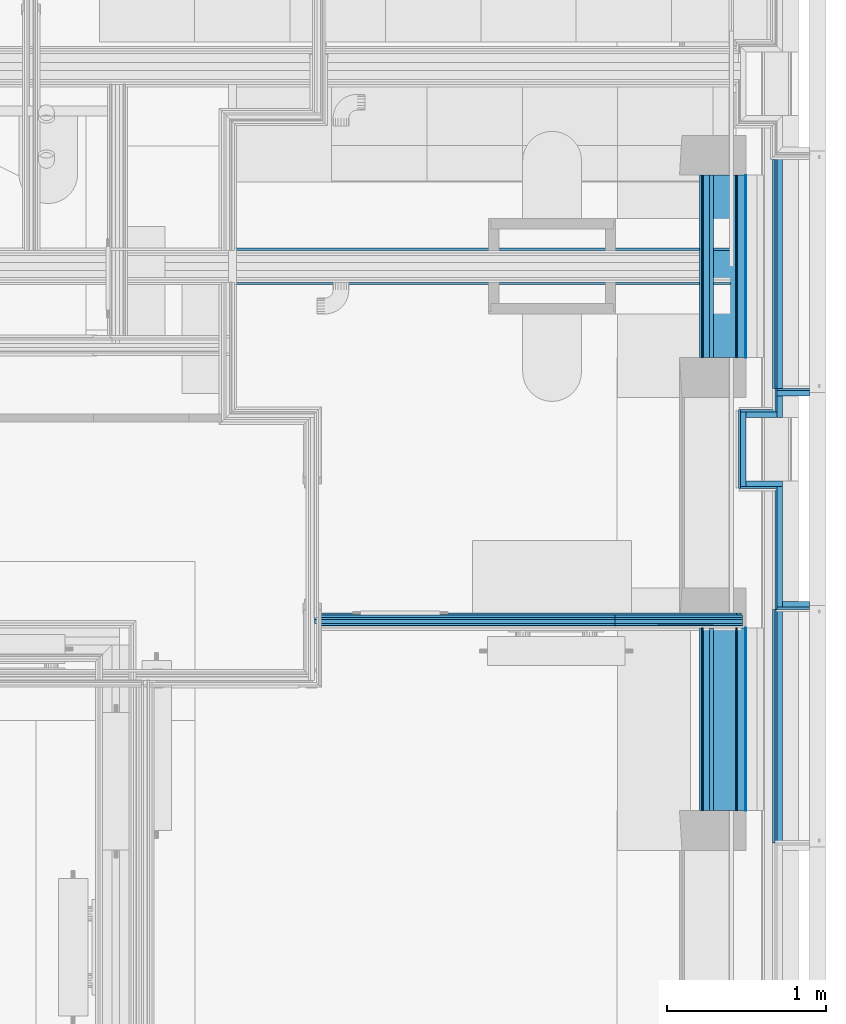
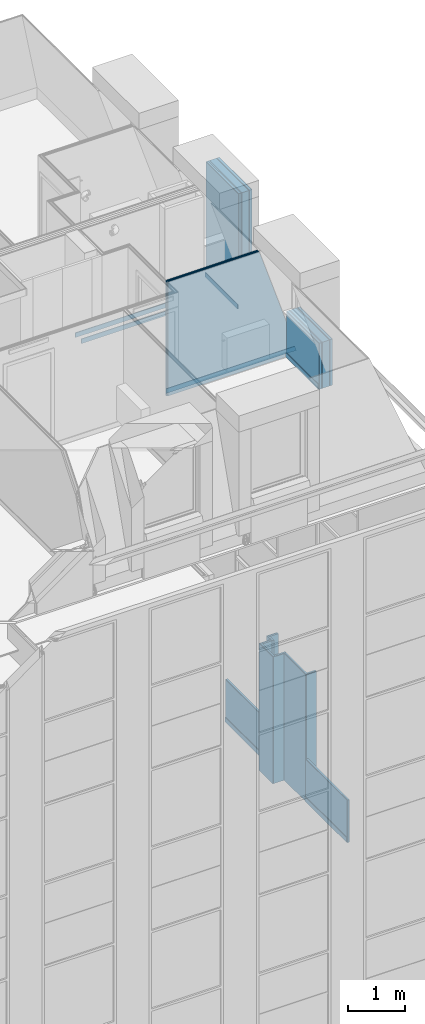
# One storey, part 41 of 169: 43 building element parts, 13 elements without a shape of their own.
"""IFC2X3 building model written with IfcOpenShell, lengths in metres."""

from ifc_helpers import new_model, entity, si_unit, converted_unit, derived_unit, money_unit, direction, frame, frame_2d, origin_with_axes, place, context, subcontext, project, spatial, rectangle, extrude, clip, halfspace, material, type_object, element, aggregate, save


model = new_model("IFC2X3")

# Units and contexts
model_context = context("Model", 3, precision=1e-05, world=origin_with_axes(), true_north=direction((0.0, 1.0)))
body_context = subcontext(model_context, "Body", "Model", "MODEL_VIEW", scale=1.0)
ifc_project = project(units=[si_unit("LENGTHUNIT", "METRE"), si_unit("AREAUNIT", "SQUARE_METRE"), si_unit("VOLUMEUNIT", "CUBIC_METRE"), si_unit("ABSORBEDDOSEUNIT", "GRAY"), si_unit("AMOUNTOFSUBSTANCEUNIT", "MOLE"), si_unit("DOSEEQUIVALENTUNIT", "SIEVERT"), si_unit("ELECTRICCAPACITANCEUNIT", "FARAD"), si_unit("ELECTRICCHARGEUNIT", "COULOMB"), si_unit("ELECTRICCONDUCTANCEUNIT", "SIEMENS"), si_unit("ELECTRICCURRENTUNIT", "AMPERE"), si_unit("ELECTRICRESISTANCEUNIT", "OHM"), si_unit("ELECTRICVOLTAGEUNIT", "VOLT"), si_unit("ENERGYUNIT", "JOULE"), si_unit("FORCEUNIT", "NEWTON"), si_unit("FREQUENCYUNIT", "HERTZ"), si_unit("ILLUMINANCEUNIT", "LUX"), si_unit("INDUCTANCEUNIT", "HENRY"), si_unit("LUMINOUSFLUXUNIT", "LUMEN"), si_unit("LUMINOUSINTENSITYUNIT", "CANDELA"), si_unit("MAGNETICFLUXDENSITYUNIT", "TESLA"), si_unit("MAGNETICFLUXUNIT", "WEBER"), si_unit("MASSUNIT", "GRAM"), converted_unit("PLANEANGLEUNIT", "degree", entity("IfcReal", 0.0174532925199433), si_unit("PLANEANGLEUNIT", "RADIAN"), dimensions=[0, 0, 0, 0, 0, 0, 0]), si_unit("POWERUNIT", "WATT"), si_unit("PRESSUREUNIT", "PASCAL"), si_unit("RADIOACTIVITYUNIT", "BECQUEREL"), si_unit("SOLIDANGLEUNIT", "STERADIAN"), si_unit("THERMODYNAMICTEMPERATUREUNIT", "KELVIN"), si_unit("TIMEUNIT", "SECOND"), derived_unit("ACCELERATIONUNIT", [(si_unit("LENGTHUNIT", "METRE"), 1), (si_unit("TIMEUNIT", "SECOND"), -2)]), derived_unit("ANGULARVELOCITYUNIT", [(converted_unit("PLANEANGLEUNIT", "degree", entity("IfcReal", 0.0174532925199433), si_unit("PLANEANGLEUNIT", "RADIAN"), dimensions=[0, 0, 0, 0, 0, 0, 0]), 1), (si_unit("TIMEUNIT", "SECOND"), -1)]), derived_unit("CURVATUREUNIT", [(converted_unit("PLANEANGLEUNIT", "degree", entity("IfcReal", 0.0174532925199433), si_unit("PLANEANGLEUNIT", "RADIAN"), dimensions=[0, 0, 0, 0, 0, 0, 0]), 1), (si_unit("LENGTHUNIT", "METRE"), -1)]), derived_unit("DYNAMICVISCOSITYUNIT", [(si_unit("PRESSUREUNIT", "PASCAL"), 1), (si_unit("TIMEUNIT", "SECOND"), 1)]), derived_unit("HEATFLUXDENSITYUNIT", [(si_unit("POWERUNIT", "WATT"), 1), (si_unit("LENGTHUNIT", "METRE"), -2)]), derived_unit("HEATINGVALUEUNIT", [(si_unit("ENERGYUNIT", "JOULE"), 1), (si_unit("MASSUNIT", "GRAM"), -1)]), derived_unit("INTEGERCOUNTRATEUNIT", [(si_unit("TIMEUNIT", "SECOND"), -1)]), derived_unit("IONCONCENTRATIONUNIT", [(si_unit("MASSUNIT", "GRAM"), 1), (si_unit("VOLUMEUNIT", "CUBIC_METRE"), -1)]), derived_unit("ISOTHERMALMOISTURECAPACITYUNIT", [(si_unit("VOLUMEUNIT", "CUBIC_METRE"), 1), (si_unit("MASSUNIT", "GRAM"), -1)]), derived_unit("KINEMATICVISCOSITYUNIT", [(si_unit("AREAUNIT", "SQUARE_METRE"), 1), (si_unit("TIMEUNIT", "SECOND"), -1)]), derived_unit("LINEARFORCEUNIT", [(si_unit("FORCEUNIT", "NEWTON"), 1), (si_unit("LENGTHUNIT", "METRE"), -1)]), derived_unit("LINEARMOMENTUNIT", [(si_unit("FORCEUNIT", "NEWTON"), 1), (si_unit("LENGTHUNIT", "METRE"), -1)]), derived_unit("LINEARSTIFFNESSUNIT", [(si_unit("FORCEUNIT", "NEWTON"), 1), (si_unit("LENGTHUNIT", "METRE"), -1)]), derived_unit("LINEARVELOCITYUNIT", [(si_unit("LENGTHUNIT", "METRE"), 1), (si_unit("TIMEUNIT", "SECOND"), -1)]), derived_unit("LUMINOUSINTENSITYDISTRIBUTIONUNIT", [(si_unit("LUMINOUSINTENSITYUNIT", "CANDELA"), 1), (si_unit("LUMINOUSFLUXUNIT", "LUMEN"), -1)]), derived_unit("MASSDENSITYUNIT", [(si_unit("MASSUNIT", "GRAM"), 1), (si_unit("VOLUMEUNIT", "CUBIC_METRE"), -1)]), derived_unit("MASSFLOWRATEUNIT", [(si_unit("MASSUNIT", "GRAM"), 1), (si_unit("TIMEUNIT", "SECOND"), -1)]), derived_unit("MASSPERLENGTHUNIT", [(si_unit("MASSUNIT", "GRAM"), 1), (si_unit("LENGTHUNIT", "METRE"), -1)]), derived_unit("MODULUSOFELASTICITYUNIT", [(si_unit("FORCEUNIT", "NEWTON"), 1), (si_unit("AREAUNIT", "SQUARE_METRE"), -1)]), derived_unit("MODULUSOFLINEARSUBGRADEREACTIONUNIT", [(si_unit("FORCEUNIT", "NEWTON"), 1), (si_unit("LENGTHUNIT", "METRE"), -2)]), derived_unit("MODULUSOFROTATIONALSUBGRADEREACTIONUNIT", [(si_unit("FORCEUNIT", "NEWTON"), 1), (si_unit("LENGTHUNIT", "METRE"), 1)]), derived_unit("MODULUSOFSUBGRADEREACTIONUNIT", [(si_unit("FORCEUNIT", "NEWTON"), 1), (si_unit("VOLUMEUNIT", "CUBIC_METRE"), -1)]), derived_unit("MOISTUREDIFFUSIVITYUNIT", [(si_unit("VOLUMEUNIT", "CUBIC_METRE"), 1), (si_unit("TIMEUNIT", "SECOND"), -1)]), derived_unit("MOLECULARWEIGHTUNIT", [(si_unit("MASSUNIT", "GRAM"), 1), (si_unit("AMOUNTOFSUBSTANCEUNIT", "MOLE"), -1)]), derived_unit("PLANARFORCEUNIT", [(si_unit("FORCEUNIT", "NEWTON"), 1), (si_unit("LENGTHUNIT", "METRE"), -2)]), derived_unit("ROTATIONALFREQUENCYUNIT", [(si_unit("TIMEUNIT", "SECOND"), -1)]), derived_unit("ROTATIONALMASSUNIT", [(si_unit("MASSUNIT", "GRAM"), 1), (si_unit("LENGTHUNIT", "METRE"), 2)]), derived_unit("ROTATIONALSTIFFNESSUNIT", [(si_unit("FORCEUNIT", "NEWTON"), 1), (si_unit("LENGTHUNIT", "METRE"), 1), (converted_unit("PLANEANGLEUNIT", "degree", entity("IfcReal", 0.0174532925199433), si_unit("PLANEANGLEUNIT", "RADIAN"), dimensions=[0, 0, 0, 0, 0, 0, 0]), -1)]), derived_unit("SECTIONAREAINTEGRALUNIT", [(si_unit("LENGTHUNIT", "METRE"), 5)]), derived_unit("SECTIONMODULUSUNIT", [(si_unit("LENGTHUNIT", "METRE"), 3)]), derived_unit("SHEARMODULUSUNIT", [(si_unit("FORCEUNIT", "NEWTON"), 1), (si_unit("AREAUNIT", "SQUARE_METRE"), -1)]), derived_unit("SOUNDPOWERUNIT", [(si_unit("ENERGYUNIT", "JOULE"), 1), (si_unit("TIMEUNIT", "SECOND"), -1)]), derived_unit("SPECIFICHEATCAPACITYUNIT", [(si_unit("FORCEUNIT", "NEWTON"), 1), (si_unit("MASSUNIT", "GRAM"), -1), (si_unit("THERMODYNAMICTEMPERATUREUNIT", "KELVIN"), -1)]), derived_unit("TEMPERATUREGRADIENTUNIT", [(si_unit("THERMODYNAMICTEMPERATUREUNIT", "KELVIN"), 1), (si_unit("LENGTHUNIT", "METRE"), -1)]), derived_unit("THERMALADMITTANCEUNIT", [(si_unit("POWERUNIT", "WATT"), 1), (si_unit("AREAUNIT", "SQUARE_METRE"), -1), (si_unit("THERMODYNAMICTEMPERATUREUNIT", "KELVIN"), -1)]), derived_unit("THERMALCONDUCTANCEUNIT", [(si_unit("POWERUNIT", "WATT"), 1), (si_unit("LENGTHUNIT", "METRE"), -1), (si_unit("THERMODYNAMICTEMPERATUREUNIT", "KELVIN"), -1)]), derived_unit("THERMALEXPANSIONCOEFFICIENTUNIT", [(si_unit("THERMODYNAMICTEMPERATUREUNIT", "KELVIN"), -1)]), derived_unit("THERMALRESISTANCEUNIT", [(si_unit("AREAUNIT", "SQUARE_METRE"), 1), (si_unit("POWERUNIT", "WATT"), -1)]), derived_unit("THERMALTRANSMITTANCEUNIT", [(si_unit("POWERUNIT", "WATT"), 1), (si_unit("AREAUNIT", "SQUARE_METRE"), -1), (si_unit("THERMODYNAMICTEMPERATUREUNIT", "KELVIN"), -1)]), derived_unit("TORQUEUNIT", [(si_unit("FORCEUNIT", "NEWTON"), 1), (si_unit("LENGTHUNIT", "METRE"), 1)]), derived_unit("VAPORPERMEABILITYUNIT", [(si_unit("MASSUNIT", "GRAM"), 1), (si_unit("TIMEUNIT", "SECOND"), -1)]), derived_unit("VOLUMETRICFLOWRATEUNIT", [(si_unit("VOLUMEUNIT", "CUBIC_METRE"), 1), (si_unit("TIMEUNIT", "SECOND"), -1)]), derived_unit("WARPINGCONSTANTUNIT", [(si_unit("LENGTHUNIT", "METRE"), 6)]), derived_unit("WARPINGMOMENTUNIT", [(si_unit("FORCEUNIT", "NEWTON"), 1), (si_unit("LENGTHUNIT", "METRE"), 2)]), money_unit("GBP")], contexts=[model_context])

# Site, building, storey
site_placement = place(None, origin_with_axes())
site = spatial("IfcSite", under=ifc_project, at=site_placement, Name="Site", CompositionType="ELEMENT")
building_placement = place(site_placement, origin_with_axes())
building = spatial("IfcBuilding", under=site, at=building_placement, Name="Building01", CompositionType="ELEMENT")
storey_placement = place(building_placement, frame((0.0, 0.0, 5.15), z_axis=(0.0, 0.0, 1.0), x_axis=(1.0, 0.0, 0.0)))
storey = spatial("IfcBuildingStorey", under=building, at=storey_placement, Name="1F", CompositionType="ELEMENT", Elevation=5.15)

# Wall, building element parts
wall_type_1 = type_object("IfcWallType", Name="SHE_A-Walls_Type06d_ExternalWallInsulation_48mm", PredefinedType="NOTDEFINED")
wall_1_placement = place(storey_placement, frame((26.674, 5.29218, 0.0), z_axis=(0.0, 0.0, 1.0), x_axis=(0.0, -1.0, 0.0)))
wall_1 = element("IfcWall", 1, at=wall_1_placement, inside=storey, type_object=wall_type_1, Name="6D", ObjectType="SHE_A-Walls_Type06d_ExternalWallInsulation_48mm")
ifc_material_1 = material(Name="A_BSUK_Walls_Timber")
placement_1 = place(wall_1_placement, origin_with_axes())
building_element_part_1 = element("IfcBuildingElementPart", 2, at=placement_1, material=ifc_material_1, Name="1", context=body_context, shape_type="SweptSolid", body=[
    extrude(rectangle(XDim=1.47, YDim=0.015, at=frame_2d((0.735, -0.0195), x_axis=(-1.0, 0.0))), frame((0.0, 0.0, 0.015), z_axis=(0.0, 0.0, 1.0), x_axis=(1.0, 0.0, 0.0)), (0.0, 0.0, 1.0), 0.1),
])
ifc_material_2 = material(Name="A_BSUK_WallInternal_Finishes_Plasterboard")
building_element_part_2 = element("IfcBuildingElementPart", 3, at=placement_1, material=ifc_material_2, Name="2", context=body_context, shape_type="SweptSolid", body=[
    extrude(rectangle(XDim=1.47, YDim=0.013, at=frame_2d((0.735, -0.0055), x_axis=(-1.0, 0.0))), origin_with_axes(), (0.0, 0.0, 1.0), 0.915),
])
ifc_material_3 = material(Name="A_BSUK_Insulation")
building_element_part_3 = element("IfcBuildingElementPart", 4, at=placement_1, material=ifc_material_3, Name="3", context=body_context, shape_type="SweptSolid", body=[
    extrude(rectangle(XDim=1.47, YDim=0.036, at=frame_2d((0.735, 0.018), x_axis=(-1.0, 0.0))), origin_with_axes(), (0.0, 0.0, 1.0), 0.915),
])
aggregate(wall_1, [building_element_part_1, building_element_part_2, building_element_part_3])

wall_2_placement = place(storey_placement, frame((26.71, 5.34018, 0.0), z_axis=(0.0, 0.0, 1.0), x_axis=(1.0, 0.0, 0.0)))
wall_2 = element("IfcWall", 5, at=wall_2_placement, inside=storey, type_object=wall_type_1, Name="6D", ObjectType="SHE_A-Walls_Type06d_ExternalWallInsulation_48mm")
placement_2 = place(wall_2_placement, origin_with_axes())
building_element_part_4 = element("IfcBuildingElementPart", 6, at=placement_2, material=ifc_material_2, Name="2", context=body_context, shape_type="SweptSolid", body=[
    extrude(rectangle(XDim=0.013, YDim=0.205, at=frame_2d((0.0675, -0.0415), x_axis=(0.0, -1.0))), origin_with_axes(), (0.0, 0.0, 1.0), 2.74),
])
building_element_part_5 = element("IfcBuildingElementPart", 7, at=placement_2, material=ifc_material_3, Name="3", context=body_context, shape_type="SweptSolid", body=[
    extrude(rectangle(XDim=0.036, YDim=0.17, at=frame_2d((0.085, -0.018), x_axis=(0.0, -1.0))), origin_with_axes(), (0.0, 0.0, 1.0), 2.74),
])
aggregate(wall_2, [building_element_part_4, building_element_part_5])

wall_3_placement = place(storey_placement, frame((26.71, 5.30418, 0.0), z_axis=(0.0, 0.0, 1.0), x_axis=(0.0, 1.0, 0.0)))
wall_3 = element("IfcWall", 8, at=wall_3_placement, inside=storey, type_object=wall_type_1, Name="6D", ObjectType="SHE_A-Walls_Type06d_ExternalWallInsulation_48mm")
placement_3 = place(wall_3_placement, origin_with_axes())
building_element_part_6 = element("IfcBuildingElementPart", 9, at=placement_3, material=ifc_material_3, Name="1", context=body_context, shape_type="SweptSolid", body=[
    extrude(rectangle(XDim=0.75982, YDim=0.036, at=frame_2d((0.37991, 0.018), x_axis=(-1.0, 0.0))), origin_with_axes(), (0.0, 0.0, 1.0), 2.74),
])
building_element_part_7 = element("IfcBuildingElementPart", 10, at=placement_3, material=ifc_material_2, Name="2", context=body_context, shape_type="SweptSolid", body=[
    extrude(rectangle(XDim=0.75982, YDim=0.013, at=frame_2d((0.36791, 0.0415), x_axis=(-1.0, 0.0))), origin_with_axes(), (0.0, 0.0, 1.0), 2.74),
])
aggregate(wall_3, [building_element_part_6, building_element_part_7])

wall_4_placement = place(storey_placement, frame((26.71, 6.1, 0.0), z_axis=(0.0, 0.0, 1.0), x_axis=(-1.0, 0.0, 0.0)))
wall_4 = element("IfcWall", 11, at=wall_4_placement, inside=storey, type_object=wall_type_1, Name="6D", ObjectType="SHE_A-Walls_Type06d_ExternalWallInsulation_48mm")
placement_4 = place(wall_4_placement, origin_with_axes())
building_element_part_8 = element("IfcBuildingElementPart", 12, at=placement_4, material=ifc_material_3, Name="1", context=body_context, shape_type="SweptSolid", body=[
    extrude(rectangle(XDim=0.23, YDim=0.036, at=frame_2d((0.115, 0.018), x_axis=(-1.0, 0.0))), origin_with_axes(), (0.0, 0.0, 1.0), 2.74),
])
building_element_part_9 = element("IfcBuildingElementPart", 13, at=placement_4, material=ifc_material_2, Name="2", context=body_context, shape_type="SweptSolid", body=[
    extrude(rectangle(XDim=0.23, YDim=0.013, at=frame_2d((0.15, 0.0415), x_axis=(-1.0, 0.0))), origin_with_axes(), (0.0, 0.0, 1.0), 2.74),
])
aggregate(wall_4, [building_element_part_8, building_element_part_9])

wall_5_placement = place(storey_placement, frame((26.48, 6.064, 0.0), z_axis=(0.0, 0.0, 1.0), x_axis=(0.0, 1.0, 0.0)))
wall_5 = element("IfcWall", 14, at=wall_5_placement, inside=storey, type_object=wall_type_1, Name="6D", ObjectType="SHE_A-Walls_Type06d_ExternalWallInsulation_48mm")
placement_5 = place(wall_5_placement, origin_with_axes())
building_element_part_10 = element("IfcBuildingElementPart", 15, at=placement_5, material=ifc_material_3, Name="1", context=body_context, shape_type="SweptSolid", body=[
    extrude(rectangle(XDim=0.472, YDim=0.036, at=frame_2d((0.236, 0.018), x_axis=(-1.0, 0.0))), origin_with_axes(), (0.0, 0.0, 1.0), 2.74),
])
building_element_part_11 = element("IfcBuildingElementPart", 16, at=placement_5, material=ifc_material_2, Name="2", context=body_context, shape_type="SweptSolid", body=[
    extrude(rectangle(XDim=0.496, YDim=0.013, at=frame_2d((0.236, 0.0415), x_axis=(-1.0, 0.0))), origin_with_axes(), (0.0, 0.0, 1.0), 2.74),
])
aggregate(wall_5, [building_element_part_10, building_element_part_11])

wall_6_placement = place(storey_placement, frame((26.48, 6.5, 0.0), z_axis=(0.0, 0.0, 1.0), x_axis=(1.0, 0.0, 0.0)))
wall_6 = element("IfcWall", 17, at=wall_6_placement, inside=storey, type_object=wall_type_1, Name="6D", ObjectType="SHE_A-Walls_Type06d_ExternalWallInsulation_48mm")
placement_6 = place(wall_6_placement, origin_with_axes())
building_element_part_12 = element("IfcBuildingElementPart", 18, at=placement_6, material=ifc_material_3, Name="1", context=body_context, shape_type="SweptSolid", body=[
    extrude(rectangle(XDim=0.194, YDim=0.036, at=frame_2d((0.097, 0.018), x_axis=(-1.0, 0.0))), origin_with_axes(), (0.0, 0.0, 1.0), 2.74),
])
building_element_part_13 = element("IfcBuildingElementPart", 19, at=placement_6, material=ifc_material_2, Name="2", context=body_context, shape_type="SweptSolid", body=[
    extrude(rectangle(XDim=0.217, YDim=0.013, at=frame_2d((0.0735, 0.0415), x_axis=(-1.0, 0.0))), origin_with_axes(), (0.0, 0.0, 1.0), 2.74),
])
aggregate(wall_6, [building_element_part_12, building_element_part_13])

wall_7_placement = place(storey_placement, frame((26.71, 6.5, 0.0), z_axis=(0.0, 0.0, 1.0), x_axis=(0.0, 1.0, 0.0)))
wall_7 = element("IfcWall", 20, at=wall_7_placement, inside=storey, type_object=wall_type_1, Name="6D", ObjectType="SHE_A-Walls_Type06d_ExternalWallInsulation_48mm")
placement_7 = place(wall_7_placement, origin_with_axes())
building_element_part_14 = element("IfcBuildingElementPart", 21, at=placement_7, material=ifc_material_3, Name="1", context=body_context, shape_type="SweptSolid", body=[
    extrude(rectangle(XDim=0.134304, YDim=0.036, at=frame_2d((0.067152, 0.018), x_axis=(-1.0, 0.0))), origin_with_axes(), (0.0, 0.0, 1.0), 2.74),
])
building_element_part_15 = element("IfcBuildingElementPart", 22, at=placement_7, material=ifc_material_2, Name="2", context=body_context, shape_type="SweptSolid", body=[
    extrude(rectangle(XDim=0.147304, YDim=0.013, at=frame_2d((0.108652, 0.0415), x_axis=(-1.0, 0.0))), origin_with_axes(), (0.0, 0.0, 1.0), 2.74),
])
aggregate(wall_7, [building_element_part_14, building_element_part_15])

wall_8_placement = place(storey_placement, frame((26.674, 6.634304, 0.0), z_axis=(0.0, 0.0, 1.0), x_axis=(1.0, 0.0, 0.0)))
wall_8 = element("IfcWall", 23, at=wall_8_placement, inside=storey, type_object=wall_type_1, Name="6D", ObjectType="SHE_A-Walls_Type06d_ExternalWallInsulation_48mm")
placement_8 = place(wall_8_placement, origin_with_axes())
building_element_part_16 = element("IfcBuildingElementPart", 24, at=placement_8, material=ifc_material_3, Name="1", context=body_context, shape_type="SweptSolid", body=[
    extrude(rectangle(XDim=0.036, YDim=0.206, at=frame_2d((0.103, 0.018), x_axis=(0.0, -1.0))), origin_with_axes(), (0.0, 0.0, 1.0), 2.74),
])
building_element_part_17 = element("IfcBuildingElementPart", 25, at=placement_8, material=ifc_material_2, Name="2", context=body_context, shape_type="SweptSolid", body=[
    extrude(rectangle(XDim=0.013, YDim=0.205, at=frame_2d((0.1035, 0.0415), x_axis=(0.0, -1.0))), origin_with_axes(), (0.0, 0.0, 1.0), 2.74),
])
aggregate(wall_8, [building_element_part_16, building_element_part_17])

wall_9_placement = place(storey_placement, frame((26.674, 8.137304, 0.0), z_axis=(0.0, 0.0, 1.0), x_axis=(0.0, -1.0, 0.0)))
wall_9 = element("IfcWall", 26, at=wall_9_placement, inside=storey, type_object=wall_type_1, Name="6D", ObjectType="SHE_A-Walls_Type06d_ExternalWallInsulation_48mm")
placement_9 = place(wall_9_placement, origin_with_axes())
building_element_part_18 = element("IfcBuildingElementPart", 27, at=placement_9, material=ifc_material_1, Name="1", context=body_context, shape_type="SweptSolid", body=[
    extrude(rectangle(XDim=1.440022, YDim=0.015, at=frame_2d((0.734989, -0.0195), x_axis=(-1.0, 0.0))), frame((0.0, 0.0, 0.015), z_axis=(0.0, 0.0, 1.0), x_axis=(1.0, 0.0, 0.0)), (0.0, 0.0, 1.0), 0.1),
])
building_element_part_19 = element("IfcBuildingElementPart", 28, at=placement_9, material=ifc_material_2, Name="2", context=body_context, shape_type="SweptSolid", body=[
    extrude(rectangle(XDim=1.455, YDim=0.013, at=frame_2d((0.7275, -0.0055), x_axis=(-1.0, 0.0))), origin_with_axes(), (0.0, 0.0, 1.0), 0.915),
])
building_element_part_20 = element("IfcBuildingElementPart", 29, at=placement_9, material=ifc_material_3, Name="3", context=body_context, shape_type="SweptSolid", body=[
    extrude(rectangle(XDim=1.455, YDim=0.036, at=frame_2d((0.7275, 0.018), x_axis=(-1.0, 0.0))), origin_with_axes(), (0.0, 0.0, 1.0), 0.915),
])
aggregate(wall_9, [building_element_part_18, building_element_part_19, building_element_part_20])

wall_type_2 = type_object("IfcWallType", Name="SHE_A-Walls_Type01d_Partywall_200mm_twin", PredefinedType="NOTDEFINED")
wall_10_placement = place(storey_placement, frame((26.380061, 7.474915, 9.83), z_axis=(0.0, 0.0, 1.0), x_axis=(-1.0, 0.0, 0.0)))
wall_10 = element("IfcWall", 30, at=wall_10_placement, inside=storey, type_object=wall_type_2, Name="1D", ObjectType="SHE_A-Walls_Type01d_Partywall_200mm_twin")
placement_10 = place(wall_10_placement, origin_with_axes())
building_element_part_21 = element("IfcBuildingElementPart", 31, at=placement_10, material=ifc_material_1, Name="1", context=body_context, shape_type="SweptSolid", body=[
    extrude(rectangle(XDim=3.121239, YDim=0.015, at=frame_2d((1.56062, -0.0825), x_axis=(-1.0, 0.0))), frame((0.0, 0.0, 0.015), z_axis=(0.0, 0.0, 1.0), x_axis=(1.0, 0.0, 0.0)), (0.0, 0.0, 1.0), 0.1),
])
building_element_part_22 = element("IfcBuildingElementPart", 32, at=placement_10, material=ifc_material_1, Name="14", context=body_context, shape_type="SweptSolid", body=[
    extrude(rectangle(XDim=3.121239, YDim=0.015, at=frame_2d((1.56062, 0.1325), x_axis=(-1.0, 0.0))), frame((0.0, 0.0, 0.015), z_axis=(0.0, 0.0, 1.0), x_axis=(1.0, 0.0, 0.0)), (0.0, 0.0, 1.0), 0.1),
])
aggregate(wall_10, [building_element_part_21, building_element_part_22])

wall_type_3 = type_object("IfcWallType", Name="SHE_A-Walls_Type06e_ExternalWallPenthouse_280mm", PredefinedType="NOTDEFINED")
wall_11_placement = place(storey_placement, frame((26.415061, 5.174915, 9.83), z_axis=(0.0, 0.0, 1.0), x_axis=(0.0, -1.0, 0.0)))
wall_11 = element("IfcWall", 33, at=wall_11_placement, inside=storey, type_object=wall_type_3, Name="6E", ObjectType="SHE_A-Walls_Type06e_ExternalWallPenthouse_280mm")
placement_11 = place(wall_11_placement, origin_with_axes())
building_element_part_23 = element("IfcBuildingElementPart", 34, at=placement_11, material=ifc_material_1, Name="1", context=body_context, shape_type="SweptSolid", body=[
    extrude(rectangle(XDim=1.149951, YDim=0.015, at=frame_2d((0.574976, -0.2225), x_axis=(-1.0, 0.0))), frame((0.0, 0.0, 0.015), z_axis=(0.0, 0.0, 1.0), x_axis=(1.0, 0.0, 0.0)), (0.0, 0.0, 1.0), 0.1),
])
building_element_part_24 = element("IfcBuildingElementPart", 35, at=placement_11, material=ifc_material_2, Name="2", context=body_context, shape_type="SweptSolid", body=[
    extrude(rectangle(XDim=1.149951, YDim=0.01, at=frame_2d((0.574976, -0.21), x_axis=(-1.0, 0.0))), origin_with_axes(), (0.0, 0.0, 1.0), 1.0),
])
building_element_part_25 = element("IfcBuildingElementPart", 36, at=placement_11, material=ifc_material_3, Name="3", context=body_context, shape_type="SweptSolid", body=[
    extrude(rectangle(XDim=1.149951, YDim=0.04, at=frame_2d((0.574976, -0.185), x_axis=(-1.0, 0.0))), origin_with_axes(), (0.0, 0.0, 1.0), 1.0),
])
ifc_material_4 = material(Name="Air Cavity")
building_element_part_26 = element("IfcBuildingElementPart", 37, at=placement_11, material=ifc_material_4, Name="4", context=body_context, shape_type="SweptSolid", body=[
    extrude(rectangle(XDim=1.149951, YDim=0.025, at=frame_2d((0.574976, -0.1525), x_axis=(-1.0, 0.0))), origin_with_axes(), (0.0, 0.0, 1.0), 1.0),
])
building_element_part_27 = element("IfcBuildingElementPart", 38, at=placement_11, material=ifc_material_3, Name="5", context=body_context, shape_type="SweptSolid", body=[
    extrude(rectangle(XDim=1.149951, YDim=0.14, at=frame_2d((0.574976, -0.07), x_axis=(-1.0, 0.0))), origin_with_axes(), (0.0, 0.0, 1.0), 1.0),
])
building_element_part_28 = element("IfcBuildingElementPart", 39, at=placement_11, material=ifc_material_1, Name="6", context=body_context, shape_type="SweptSolid", body=[
    extrude(rectangle(XDim=1.149951, YDim=0.01, at=frame_2d((0.574976, 0.005), x_axis=(-1.0, 0.0))), origin_with_axes(), (0.0, 0.0, 1.0), 1.0),
])
building_element_part_29 = element("IfcBuildingElementPart", 40, at=placement_11, material=ifc_material_4, Name="7", context=body_context, shape_type="SweptSolid", body=[
    extrude(rectangle(XDim=1.149951, YDim=0.05, at=frame_2d((0.574976, 0.035), x_axis=(-1.0, 0.0))), origin_with_axes(), (0.0, 0.0, 1.0), 1.0),
])
ifc_material_5 = material(Name="A_BSUK_WallInternal_Finishes_Metal")
building_element_part_30 = element("IfcBuildingElementPart", 41, at=placement_11, material=ifc_material_5, Name="8", context=body_context, shape_type="SweptSolid", body=[
    extrude(rectangle(XDim=1.149951, YDim=0.005, at=frame_2d((0.574976, 0.0625), x_axis=(-1.0, 0.0))), origin_with_axes(), (0.0, 0.0, 1.0), 1.0),
])
aggregate(wall_11, [building_element_part_23, building_element_part_24, building_element_part_25, building_element_part_26, building_element_part_27, building_element_part_28, building_element_part_29, building_element_part_30])

wall_12_placement = place(storey_placement, frame((26.415061, 8.024915, 9.83), z_axis=(0.0, 0.0, 1.0), x_axis=(0.0, -1.0, 0.0)))
wall_12 = element("IfcWall", 42, at=wall_12_placement, inside=storey, type_object=wall_type_3, Name="6E", ObjectType="SHE_A-Walls_Type06e_ExternalWallPenthouse_280mm")
placement_12 = place(wall_12_placement, origin_with_axes())
building_element_part_31 = element("IfcBuildingElementPart", 43, at=placement_12, material=ifc_material_1, Name="1", context=body_context, shape_type="SweptSolid", body=[
    extrude(rectangle(XDim=1.149951, YDim=0.015, at=frame_2d((0.574976, -0.2225), x_axis=(-1.0, 0.0))), frame((0.0, 0.0, 0.015), z_axis=(0.0, 0.0, 1.0), x_axis=(1.0, 0.0, 0.0)), (0.0, 0.0, 1.0), 0.1),
])
building_element_part_32 = element("IfcBuildingElementPart", 44, at=placement_12, material=ifc_material_2, Name="2", context=body_context, shape_type="SweptSolid", body=[
    extrude(rectangle(XDim=1.149951, YDim=0.01, at=frame_2d((0.574976, -0.21), x_axis=(-1.0, 0.0))), origin_with_axes(), (0.0, 0.0, 1.0), 2.5),
])
building_element_part_33 = element("IfcBuildingElementPart", 45, at=placement_12, material=ifc_material_3, Name="3", context=body_context, shape_type="SweptSolid", body=[
    extrude(rectangle(XDim=1.149951, YDim=0.04, at=frame_2d((0.574976, -0.185), x_axis=(-1.0, 0.0))), origin_with_axes(), (0.0, 0.0, 1.0), 2.5),
])
building_element_part_34 = element("IfcBuildingElementPart", 46, at=placement_12, material=ifc_material_4, Name="4", context=body_context, shape_type="SweptSolid", body=[
    extrude(rectangle(XDim=1.149951, YDim=0.025, at=frame_2d((0.574976, -0.1525), x_axis=(-1.0, 0.0))), origin_with_axes(), (0.0, 0.0, 1.0), 2.5),
])
building_element_part_35 = element("IfcBuildingElementPart", 47, at=placement_12, material=ifc_material_3, Name="5", context=body_context, shape_type="SweptSolid", body=[
    extrude(rectangle(XDim=1.149951, YDim=0.14, at=frame_2d((0.574976, -0.07), x_axis=(-1.0, 0.0))), origin_with_axes(), (0.0, 0.0, 1.0), 2.5),
])
building_element_part_36 = element("IfcBuildingElementPart", 48, at=placement_12, material=ifc_material_1, Name="6", context=body_context, shape_type="SweptSolid", body=[
    extrude(rectangle(XDim=1.149951, YDim=0.01, at=frame_2d((0.574976, 0.005), x_axis=(-1.0, 0.0))), origin_with_axes(), (0.0, 0.0, 1.0), 2.5),
])
building_element_part_37 = element("IfcBuildingElementPart", 49, at=placement_12, material=ifc_material_4, Name="7", context=body_context, shape_type="SweptSolid", body=[
    extrude(rectangle(XDim=1.149951, YDim=0.05, at=frame_2d((0.574976, 0.035), x_axis=(-1.0, 0.0))), origin_with_axes(), (0.0, 0.0, 1.0), 2.5),
])
building_element_part_38 = element("IfcBuildingElementPart", 50, at=placement_12, material=ifc_material_5, Name="8", context=body_context, shape_type="SweptSolid", body=[
    extrude(rectangle(XDim=1.149951, YDim=0.005, at=frame_2d((0.574976, 0.0625), x_axis=(-1.0, 0.0))), origin_with_axes(), (0.0, 0.0, 1.0), 2.5),
])
aggregate(wall_12, [building_element_part_31, building_element_part_32, building_element_part_33, building_element_part_34, building_element_part_35, building_element_part_36, building_element_part_37, building_element_part_38])

wall_type_4 = type_object("IfcWallType", Name="SHE_A-Walls_Type05b_Partition_80mm", PredefinedType="NOTDEFINED")
wall_13_placement = place(storey_placement, frame((23.763, 5.201915, 9.83), z_axis=(0.0, 0.0, 1.0), x_axis=(1.0, 0.0, 0.0)))
wall_13 = element("IfcWall", 51, at=wall_13_placement, inside=storey, type_object=wall_type_4, Name="5B", ObjectType="SHE_A-Walls_Type05b_Partition_80mm")
placement_13 = place(wall_13_placement, origin_with_axes())
building_element_part_39 = element("IfcBuildingElementPart", 52, at=placement_13, material=ifc_material_4, Name="3", context=body_context, shape_type="Clipping", body=[
    clip(extrude(rectangle(XDim=2.666143, YDim=0.012, at=frame_2d((1.360072, -0.006), x_axis=(-1.0, 0.0))), origin_with_axes(), (0.0, 0.0, 1.0), 2.468), halfspace(frame((2.435971, 0.0, 0.791495), z_axis=(-0.95105652, 0.0, -0.30901699), x_axis=(0.0, -1.0, 0.0)), True)),
])
building_element_part_40 = element("IfcBuildingElementPart", 53, at=placement_13, material=ifc_material_3, Name="4", context=body_context, shape_type="Clipping", body=[
    clip(extrude(rectangle(XDim=2.693143, YDim=0.025, at=frame_2d((1.346572, 0.0125), x_axis=(-1.0, 0.0))), origin_with_axes(), (0.0, 0.0, 1.0), 2.468), halfspace(frame((2.435971, 0.0, 0.791495), z_axis=(-0.95105652, 0.0, -0.30901699), x_axis=(0.0, -1.0, 0.0)), True)),
])
building_element_part_41 = element("IfcBuildingElementPart", 54, at=placement_13, material=ifc_material_4, Name="5", context=body_context, shape_type="Clipping", body=[
    clip(extrude(rectangle(XDim=2.693143, YDim=0.013, at=frame_2d((1.346572, 0.0315), x_axis=(-1.0, 0.0))), origin_with_axes(), (0.0, 0.0, 1.0), 2.468), halfspace(frame((2.435971, 0.0, 0.791495), z_axis=(-0.95105652, 0.0, -0.30901699), x_axis=(0.0, -1.0, 0.0)), True)),
])
building_element_part_42 = element("IfcBuildingElementPart", 55, at=placement_13, material=ifc_material_2, Name="6", context=body_context, shape_type="Clipping", body=[
    clip(extrude(rectangle(XDim=2.666143, YDim=0.015, at=frame_2d((1.360072, 0.0455), x_axis=(-1.0, 0.0))), origin_with_axes(), (0.0, 0.0, 1.0), 2.468), halfspace(frame((2.435971, 0.0, 0.791495), z_axis=(-0.95105652, 0.0, -0.30901699), x_axis=(0.0, -1.0, 0.0)), True)),
])
building_element_part_43 = element("IfcBuildingElementPart", 56, at=placement_13, material=ifc_material_1, Name="7", context=body_context, shape_type="Clipping", body=[
    clip(extrude(rectangle(XDim=2.66127, YDim=0.015, at=frame_2d((1.357635, 0.0605), x_axis=(-1.0, 0.0))), frame((0.0, 0.0, 0.015), z_axis=(0.0, 0.0, 1.0), x_axis=(1.0, 0.0, 0.0)), (0.0, 0.0, 1.0), 0.1), halfspace(frame((2.435971, 0.0, 0.791495), z_axis=(-0.95105652, 0.0, -0.30901699), x_axis=(0.0, -1.0, 0.0)), True)),
])
aggregate(wall_13, [building_element_part_39, building_element_part_40, building_element_part_41, building_element_part_42, building_element_part_43])

save(model, "model.ifc")
